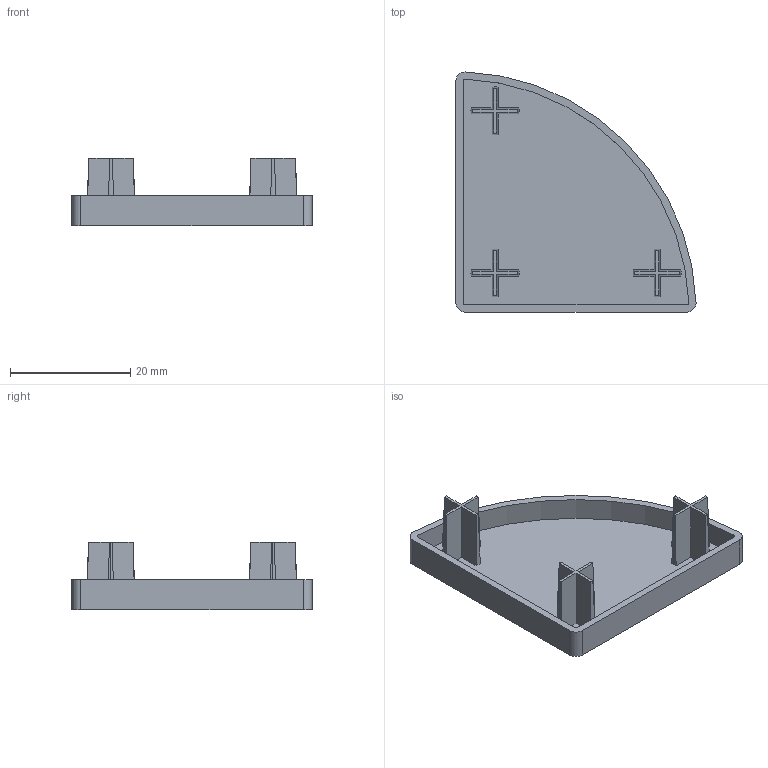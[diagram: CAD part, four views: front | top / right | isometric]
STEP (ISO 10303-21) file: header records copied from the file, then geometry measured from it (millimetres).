
FILE_DESCRIPTION (( 'STEP AP203' ), '1' );
FILE_NAME ('ECR4040-8.STEP', '2024-02-19T05:59:33', ( '' ), ( '' ), 'SwSTEP 2.0', 'SolidWorks 2022', '' );
FILE_SCHEMA (( 'CONFIG_CONTROL_DESIGN' ));
Length unit declared in the file: millimetre
Products named in the file (1): ECR4040-8
Bounding box: 39.97 x 39.97 x 11.2 mm (x, y, z)
Volume: 2457.4 mm3; surface area: 4619.6 mm2
Topology: 1 solids, 1 shells, 59 faces, 159 edges, 106 vertices
Faces by surface type: plane 34, cone 15, cylinder 10
Entity records: 2036 total; most frequent: CARTESIAN_POINT 469, ORIENTED_EDGE 318, DIRECTION 305, EDGE_CURVE 159, AXIS2_PLACEMENT_3D 110, VERTEX_POINT 106, LINE 85, VECTOR 85
